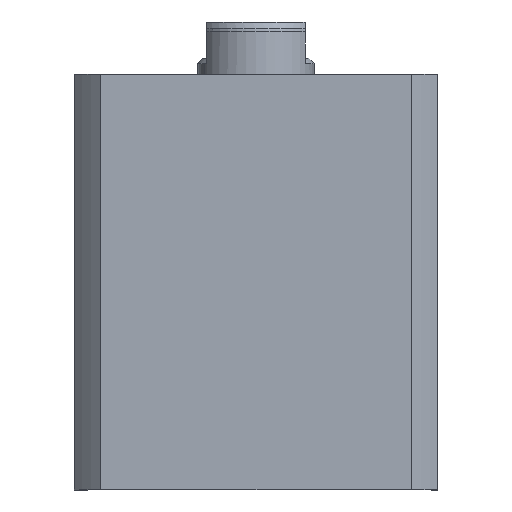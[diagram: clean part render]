
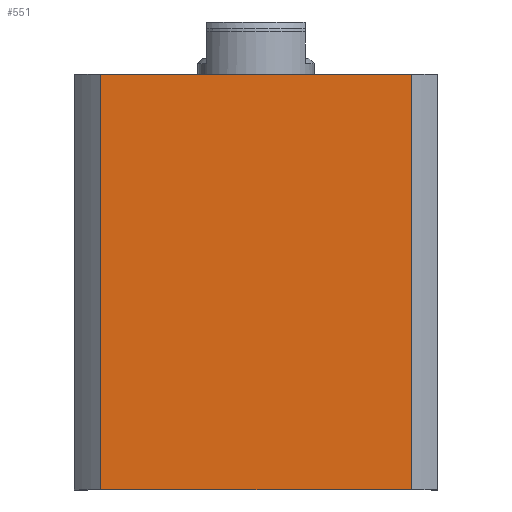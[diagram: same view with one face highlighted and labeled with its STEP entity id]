
A CAD part, front view. The second image highlights one B-rep face of the part: STEP entity #551.
In plain terms, the highlighted planar face has unit normal (0, -1, 0).
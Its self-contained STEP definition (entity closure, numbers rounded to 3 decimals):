
#531=AXIS2_PLACEMENT_3D('Plane Axis2P3D',#528,#529,#530) ;
#279=CARTESIAN_POINT('Vertex',(29.85,-35.,0.)) ;
#282=CARTESIAN_POINT('Line Origine',(0.,-35.,0.)) ;
#286=CARTESIAN_POINT('Vertex',(-29.85,-35.,0.)) ;
#513=CARTESIAN_POINT('Vertex',(29.85,-35.,80.)) ;
#516=CARTESIAN_POINT('Line Origine',(29.85,-35.,40.)) ;
#528=CARTESIAN_POINT('Axis2P3D Location',(35.,-35.,80.)) ;
#533=CARTESIAN_POINT('Line Origine',(0.,-35.,80.)) ;
#537=CARTESIAN_POINT('Vertex',(-29.85,-35.,80.)) ;
#540=CARTESIAN_POINT('Line Origine',(-29.85,-35.,40.)) ;
#283=DIRECTION('Vector Direction',(-1.,0.,0.)) ;
#517=DIRECTION('Vector Direction',(0.,0.,1.)) ;
#529=DIRECTION('Axis2P3D Direction',(-0.,-1.,-0.)) ;
#530=DIRECTION('Axis2P3D XDirection',(-1.,0.,0.)) ;
#534=DIRECTION('Vector Direction',(-1.,0.,0.)) ;
#541=DIRECTION('Vector Direction',(0.,0.,-1.)) ;
#284=VECTOR('Line Direction',#283,1.) ;
#518=VECTOR('Line Direction',#517,1.) ;
#535=VECTOR('Line Direction',#534,1.) ;
#542=VECTOR('Line Direction',#541,1.) ;
#546=ORIENTED_EDGE('',*,*,#539,.F.) ;
#547=ORIENTED_EDGE('',*,*,#544,.T.) ;
#548=ORIENTED_EDGE('',*,*,#288,.F.) ;
#549=ORIENTED_EDGE('',*,*,#520,.F.) ;
#551=ADVANCED_FACE('PartBody',(#550),#532,.T.) ;
#288=EDGE_CURVE('',#280,#287,#285,.T.) ;
#520=EDGE_CURVE('',#514,#280,#519,.F.) ;
#539=EDGE_CURVE('',#538,#514,#536,.F.) ;
#544=EDGE_CURVE('',#538,#287,#543,.T.) ;
#545=EDGE_LOOP('',(#546,#547,#548,#549)) ;
#550=FACE_OUTER_BOUND('',#545,.T.) ;
#285=LINE('Line',#282,#284) ;
#519=LINE('Line',#516,#518) ;
#536=LINE('Line',#533,#535) ;
#543=LINE('Line',#540,#542) ;
#532=PLANE('Plane',#531) ;
#280=VERTEX_POINT('',#279) ;
#287=VERTEX_POINT('',#286) ;
#514=VERTEX_POINT('',#513) ;
#538=VERTEX_POINT('',#537) ;
